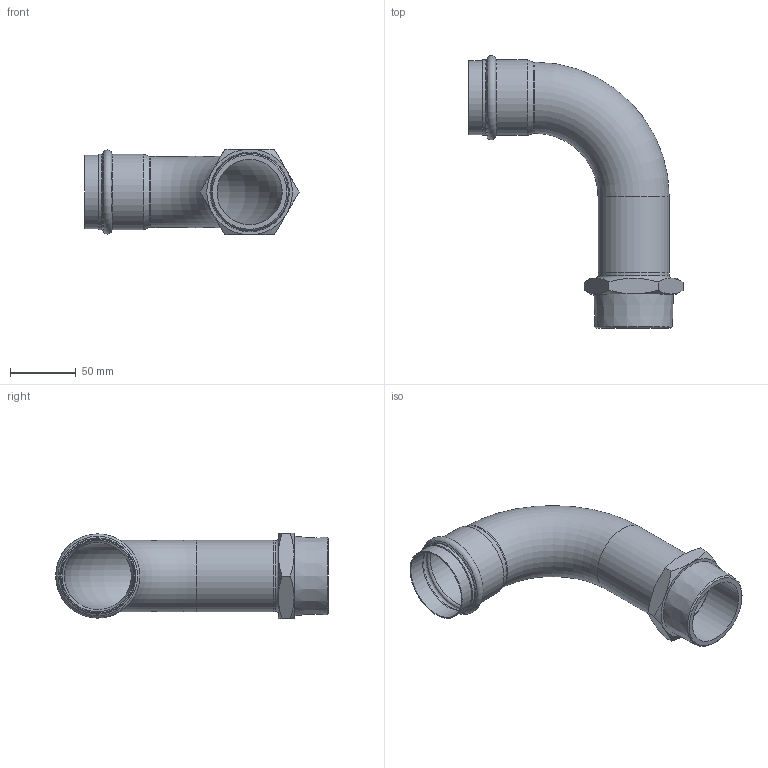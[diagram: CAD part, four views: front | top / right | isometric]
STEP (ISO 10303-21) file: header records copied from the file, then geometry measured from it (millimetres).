
FILE_DESCRIPTION((''),'2;1');
FILE_NAME('G:\Nirosan-Schmiedefeld\Technics\CAD\Bauteile VA\054\69002ag542(2).stp','2008-08-27T13:50:07',('herberg'),(''),'Autodesk Inventor 2009','Autodesk Inventor 2009','');
FILE_SCHEMA(('AUTOMOTIVE_DESIGN { 1 0 10303 214 1 1 1 1 }'));
Length unit declared in the file: millimetre
Products named in the file (3): 69002ag542(2); 69001A54(2); AG542(2)
Assembly tree (2 placements, depth 2):
  69002ag542(2)
    69001A54(2)
    AG542(2)
Bounding box: 162.53 x 206.94 x 65 mm (x, y, z)
Volume: 99030.8 mm3; surface area: 94785.8 mm2
Topology: 2 solids, 2 shells, 53 faces, 109 edges, 62 vertices
Faces by surface type: cone 19, plane 12, cylinder 10, bspline 7, torus 5
Full cylindrical faces by diameter (mm): 51 x2, 54 x3, 54.35 x2, 55.95 x1, 57.35 x2
Entity records: 1495 total; most frequent: CARTESIAN_POINT 503, DIRECTION 200, ORIENTED_EDGE 152, AXIS2_PLACEMENT_3D 97, EDGE_LOOP 88, EDGE_CURVE 76, VERTEX_POINT 58, FACE_OUTER_BOUND 53
